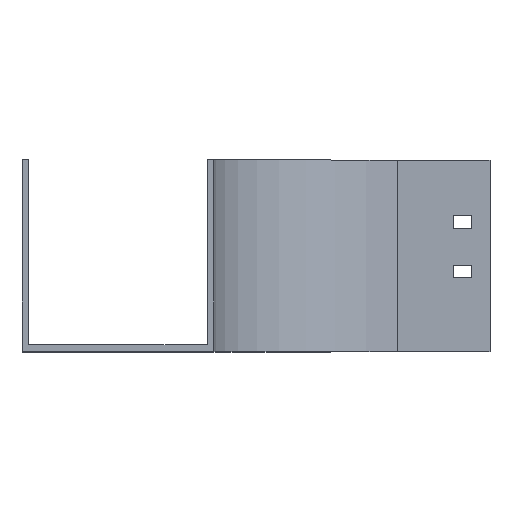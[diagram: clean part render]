
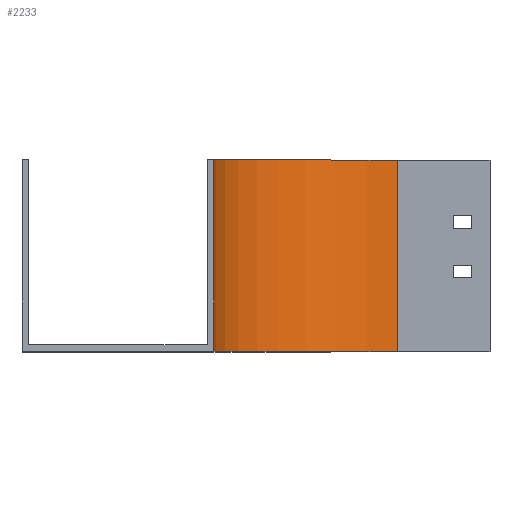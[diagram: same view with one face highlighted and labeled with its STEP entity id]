
A CAD part, top view. The second image highlights one B-rep face of the part: STEP entity #2233.
In plain terms, the highlighted cylindrical face has radius 100 mm (diameter 200 mm), a partial arc.
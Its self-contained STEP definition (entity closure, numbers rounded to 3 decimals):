
#8 = VERTEX_POINT ( 'NONE', #460 ) ;
#24 = ORIENTED_EDGE ( 'NONE', *, *, #1616, .T. ) ;
#94 = VECTOR ( 'NONE', #2289, 1000. ) ;
#247 = DIRECTION ( 'NONE',  ( 0., 0., -1. ) ) ;
#249 = VERTEX_POINT ( 'NONE', #1597 ) ;
#261 = CIRCLE ( 'NONE', #2039, 100. ) ;
#460 = CARTESIAN_POINT ( 'NONE',  ( 0., 104., -100. ) ) ;
#471 = CYLINDRICAL_SURFACE ( 'NONE', #590, 100. ) ;
#532 = DIRECTION ( 'NONE',  ( 0., -1., 0. ) ) ;
#583 = AXIS2_PLACEMENT_3D ( 'NONE', #1894, #2069, #1488 ) ;
#590 = AXIS2_PLACEMENT_3D ( 'NONE', #1301, #2149, #247 ) ;
#652 = CARTESIAN_POINT ( 'NONE',  ( 0., 0., -100. ) ) ;
#660 = FACE_OUTER_BOUND ( 'NONE', #2490, .T. ) ;
#811 = VERTEX_POINT ( 'NONE', #1225 ) ;
#861 = LINE ( 'NONE', #2746, #1858 ) ;
#1225 = CARTESIAN_POINT ( 'NONE',  ( -100., 104., 0. ) ) ;
#1301 = CARTESIAN_POINT ( 'NONE',  ( 0., 104., 0. ) ) ;
#1339 = EDGE_CURVE ( 'NONE', #8, #1369, #861, .T. ) ;
#1340 = ORIENTED_EDGE ( 'NONE', *, *, #1453, .F. ) ;
#1369 = VERTEX_POINT ( 'NONE', #652 ) ;
#1392 = ORIENTED_EDGE ( 'NONE', *, *, #2509, .T. ) ;
#1453 = EDGE_CURVE ( 'NONE', #811, #8, #261, .T. ) ;
#1488 = DIRECTION ( 'NONE',  ( 0., 0., -1. ) ) ;
#1559 = ORIENTED_EDGE ( 'NONE', *, *, #1339, .F. ) ;
#1583 = DIRECTION ( 'NONE',  ( 0., 0., -1. ) ) ;
#1597 = CARTESIAN_POINT ( 'NONE',  ( -100., 0., 0. ) ) ;
#1616 = EDGE_CURVE ( 'NONE', #249, #1369, #1732, .T. ) ;
#1732 = CIRCLE ( 'NONE', #583, 100. ) ;
#1858 = VECTOR ( 'NONE', #2358, 1000. ) ;
#1894 = CARTESIAN_POINT ( 'NONE',  ( 0., 0., 0. ) ) ;
#2039 = AXIS2_PLACEMENT_3D ( 'NONE', #2416, #532, #1583 ) ;
#2069 = DIRECTION ( 'NONE',  ( 0., -1., 0. ) ) ;
#2149 = DIRECTION ( 'NONE',  ( 0., -1., 0. ) ) ;
#2233 = ADVANCED_FACE ( 'NONE', ( #660 ), #471, .F. ) ;
#2289 = DIRECTION ( 'NONE',  ( 0., -1., 0. ) ) ;
#2334 = CARTESIAN_POINT ( 'NONE',  ( -100., 104., 0. ) ) ;
#2358 = DIRECTION ( 'NONE',  ( 0., -1., 0. ) ) ;
#2416 = CARTESIAN_POINT ( 'NONE',  ( 0., 104., 0. ) ) ;
#2482 = LINE ( 'NONE', #2334, #94 ) ;
#2490 = EDGE_LOOP ( 'NONE', ( #24, #1559, #1340, #1392 ) ) ;
#2509 = EDGE_CURVE ( 'NONE', #811, #249, #2482, .T. ) ;
#2746 = CARTESIAN_POINT ( 'NONE',  ( 0., 104., -100. ) ) ;
